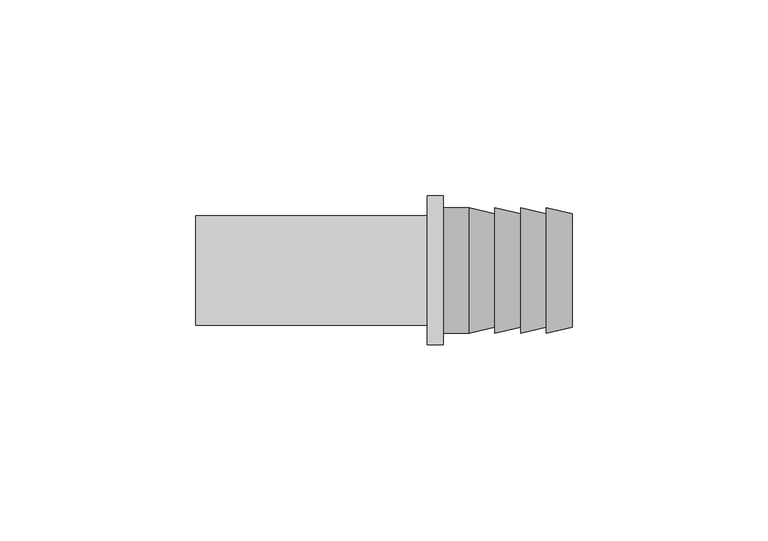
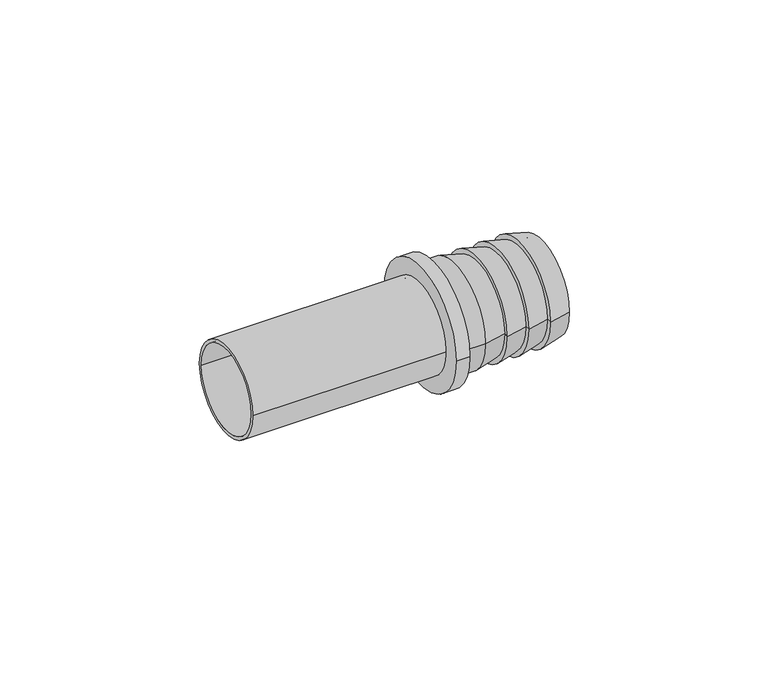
"""IFC4 building model written with IfcOpenShell, lengths in millimetres: pipe fitting geometry, VALTEC_VTi.909.I_Вставка с переходом на аксиальное соединение : VTi.909.I."""

from ifc_helpers import new_model, si_unit, point, frame, origin, origin_2d, place, context, project, spatial, polyline, circle_curve, trimmed, segment, composite_curve, outline, extrude, source, transform, mapped, element, save
from ifc_brep_helpers import plane_surface, cylinder_surface, revolved_surface, advanced_brep


def pipe_fitting_74ee13fb(model_context):
    return source(origin(), model_context, "Body", "SolidModel", [
        advanced_brep(
        [(69.704, -16.0, 0.0), (69.704, 16.0, 0.0), (76.278, 14.5, 0.0), (76.278, -14.5, 0.0), (63.13, -16.0, 0.0), (63.13, 16.0, 0.0), (63.13, -13.0, 0.0), (63.13, 13.0, 0.0), (96.0, -14.5, 0.0), (96.0, 14.5, 0.0), (96.0, 13.0, 0.0), (96.0, -13.0, 0.0), (89.426, -16.0, 0.0), (89.426, 16.0, 0.0), (89.426, -14.5, 0.0), (89.426, 14.5, 0.0), (82.852, -16.0, 0.0), (82.852, 16.0, 0.0), (82.852, -14.5, 0.0), (82.852, 14.5, 0.0), (76.278, -16.0, 0.0), (76.278, 16.0, 0.0)],
        [
            (0, 1, circle_curve(frame((69.704, 0.0, 0.0), z_axis=(1.0, 0.0, 0.0), x_axis=(0.0, 1.0, 0.0)), 16.0)),
            (1, 2),
            (2, 3, circle_curve(frame((76.278, 0.0, 0.0), z_axis=(-1.0, 0.0, 0.0), x_axis=(0.0, 1.0, 0.0)), 14.5)),
            (3, 0),
            (1, 0, circle_curve(frame((69.704, 0.0, 0.0), z_axis=(1.0, 0.0, 0.0), x_axis=(0.0, 1.0, 0.0)), 16.0)),
            (3, 2, circle_curve(frame((76.278, 0.0, 0.0), z_axis=(-1.0, 0.0, 0.0), x_axis=(0.0, 1.0, 0.0)), 14.5)),
            (4, 5, circle_curve(frame((63.13, 0.0, 0.0), z_axis=(1.0, 0.0, 0.0), x_axis=(0.0, 1.0, 0.0)), 16.0)),
            (5, 1),
            (0, 4),
            (5, 4, circle_curve(frame((63.13, 0.0, 0.0), z_axis=(1.0, 0.0, 0.0), x_axis=(0.0, 1.0, 0.0)), 16.0)),
            (6, 7, circle_curve(frame((63.13, 0.0, 0.0), z_axis=(1.0, 0.0, 0.0), x_axis=(0.0, 1.0, 0.0)), 13.0)),
            (7, 5),
            (4, 6),
            (7, 6, circle_curve(frame((63.13, 0.0, 0.0), z_axis=(1.0, 0.0, 0.0), x_axis=(0.0, 1.0, 0.0)), 13.0)),
            (8, 9, circle_curve(frame((96.0, 0.0, 0.0), z_axis=(1.0, 0.0, 0.0), x_axis=(0.0, 1.0, 0.0)), 14.5)),
            (9, 10),
            (10, 11, circle_curve(frame((96.0, 0.0, 0.0), z_axis=(-1.0, 0.0, 0.0), x_axis=(0.0, 1.0, 0.0)), 13.0)),
            (11, 8),
            (9, 8, circle_curve(frame((96.0, 0.0, 0.0), z_axis=(1.0, 0.0, 0.0), x_axis=(0.0, 1.0, 0.0)), 14.5)),
            (11, 10, circle_curve(frame((96.0, 0.0, 0.0), z_axis=(-1.0, 0.0, 0.0), x_axis=(0.0, 1.0, 0.0)), 13.0)),
            (12, 13, circle_curve(frame((89.426, 0.0, 0.0), z_axis=(1.0, 0.0, 0.0), x_axis=(0.0, 1.0, 0.0)), 16.0)),
            (13, 9),
            (8, 12),
            (13, 12, circle_curve(frame((89.426, 0.0, 0.0), z_axis=(1.0, 0.0, 0.0), x_axis=(0.0, 1.0, 0.0)), 16.0)),
            (14, 15, circle_curve(frame((89.426, 0.0, 0.0), z_axis=(1.0, 0.0, 0.0), x_axis=(0.0, 1.0, 0.0)), 14.5)),
            (15, 13),
            (12, 14),
            (15, 14, circle_curve(frame((89.426, 0.0, 0.0), z_axis=(1.0, 0.0, 0.0), x_axis=(0.0, 1.0, 0.0)), 14.5)),
            (16, 17, circle_curve(frame((82.852, 0.0, 0.0), z_axis=(1.0, 0.0, 0.0), x_axis=(0.0, 1.0, 0.0)), 16.0)),
            (17, 15),
            (14, 16),
            (17, 16, circle_curve(frame((82.852, 0.0, 0.0), z_axis=(1.0, 0.0, 0.0), x_axis=(0.0, 1.0, 0.0)), 16.0)),
            (18, 19, circle_curve(frame((82.852, 0.0, 0.0), z_axis=(1.0, 0.0, 0.0), x_axis=(0.0, 1.0, 0.0)), 14.5)),
            (19, 17),
            (16, 18),
            (19, 18, circle_curve(frame((82.852, 0.0, 0.0), z_axis=(1.0, 0.0, 0.0), x_axis=(0.0, 1.0, 0.0)), 14.5)),
            (20, 21, circle_curve(frame((76.278, 0.0, 0.0), z_axis=(1.0, 0.0, 0.0), x_axis=(0.0, 1.0, 0.0)), 16.0)),
            (21, 19),
            (18, 20),
            (21, 20, circle_curve(frame((76.278, 0.0, 0.0), z_axis=(1.0, 0.0, 0.0), x_axis=(0.0, 1.0, 0.0)), 16.0)),
            (2, 21),
            (20, 3),
            (10, 7),
            (6, 11),
        ],
        [
            revolved_surface(polyline([(76.278, 14.5, 0.0), (69.704, 16.0, 0.0)]), (94.6579616, 0.0, 0.0), (-1.0, 0.0, 0.0)),
            cylinder_surface(frame((94.6579616, 0.0, 0.0), z_axis=(-1.0, 0.0, 0.0), x_axis=(0.0, 1.0, 0.0)), 16.0),
            plane_surface(frame((63.13, 0.0, 0.0), z_axis=(-1.0, 0.0, 0.0), x_axis=(0.0, 1.0, 0.0))),
            plane_surface(frame((96.0, 0.0, 0.0), z_axis=(1.0, 0.0, 0.0), x_axis=(0.0, 1.0, 0.0))),
            revolved_surface(polyline([(96.0, 14.5, 0.0), (89.426, 16.0, 0.0)]), (94.6579616, 0.0, 0.0), (-1.0, 0.0, 0.0)),
            plane_surface(frame((89.426, 0.0, 0.0), z_axis=(-1.0, 0.0, 0.0), x_axis=(0.0, 1.0, 0.0))),
            revolved_surface(polyline([(89.426, 14.5, 0.0), (82.852, 16.0, 0.0)]), (94.6579616, 0.0, 0.0), (-1.0, 0.0, 0.0)),
            plane_surface(frame((82.852, 0.0, 0.0), z_axis=(-1.0, 0.0, 0.0), x_axis=(0.0, 1.0, 0.0))),
            revolved_surface(polyline([(82.852, 14.5, 0.0), (76.278, 16.0, 0.0)]), (94.6579616, 0.0, 0.0), (-1.0, 0.0, 0.0)),
            plane_surface(frame((76.278, 0.0, 0.0), z_axis=(-1.0, 0.0, 0.0), x_axis=(0.0, 1.0, 0.0))),
            revolved_surface(polyline([(63.13, 13.0, 0.0), (96.0, 13.0, 0.0)]), (94.6579616, 0.0, 0.0), (-1.0, 0.0, 0.0)),
        ],
        [
            (0, [[1, 2, 3, 4]]),
            (0, [[5, -4, 6, -2]]),
            (1, [[7, 8, -1, 9]]),
            (1, [[10, -9, -5, -8]]),
            (2, [[11, 12, -7, 13]]),
            (2, [[14, -13, -10, -12]]),
            (3, [[15, 16, 17, 18]]),
            (3, [[19, -18, 20, -16]]),
            (4, [[21, 22, -15, 23]]),
            (4, [[24, -23, -19, -22]]),
            (5, [[25, 26, -21, 27]]),
            (5, [[28, -27, -24, -26]]),
            (6, [[29, 30, -25, 31]]),
            (6, [[32, -31, -28, -30]]),
            (7, [[33, 34, -29, 35]]),
            (7, [[36, -35, -32, -34]]),
            (8, [[37, 38, -33, 39]]),
            (8, [[40, -39, -36, -38]]),
            (9, [[-3, 41, -37, 42]]),
            (9, [[-6, -42, -40, -41]]),
            (10, [[-17, 43, -11, 44]]),
            (10, [[-20, -44, -14, -43]]),
        ],
    ),
        extrude(outline(composite_curve([segment(trimmed(circle_curve(origin_2d(), 19.0), [point((-19.0, 0.0))], [point((19.0, 0.0))], False, "CARTESIAN"), True, "CONTINUOUS"), segment(trimmed(circle_curve(origin_2d(), 19.0), [point((19.0, 0.0))], [point((-19.0, 0.0))], False, "CARTESIAN"), True, "CONTINUOUS")], self_intersect=False), holes=[composite_curve([segment(trimmed(circle_curve(origin_2d(), 13.0), [point((-13.0, 0.0))], [point((13.0, 0.0))], True, "CARTESIAN"), True, "CONTINUOUS"), segment(trimmed(circle_curve(origin_2d(), 13.0), [point((13.0, 0.0))], [point((-13.0, 0.0))], True, "CARTESIAN"), True, "CONTINUOUS")], self_intersect=False)]), frame((59.0, 0.0, 0.0), z_axis=(1.0, 0.0, 0.0), x_axis=(0.0, 1.0, 0.0)), (0.0, 0.0, 1.0), 4.13),
        extrude(outline(composite_curve([segment(trimmed(circle_curve(origin_2d(), 14.0), [point((-14.0, 0.0))], [point((14.0, 0.0))], False, "CARTESIAN"), True, "CONTINUOUS"), segment(trimmed(circle_curve(origin_2d(), 14.0), [point((14.0, 0.0))], [point((-14.0, 0.0))], False, "CARTESIAN"), True, "CONTINUOUS")], self_intersect=False), holes=[composite_curve([segment(trimmed(circle_curve(origin_2d(), 13.0), [point((-13.0, 0.0))], [point((13.0, 0.0))], True, "CARTESIAN"), True, "CONTINUOUS"), segment(trimmed(circle_curve(origin_2d(), 13.0), [point((13.0, 0.0))], [point((-13.0, 0.0))], True, "CARTESIAN"), True, "CONTINUOUS")], self_intersect=False)]), frame((0.0, 0.0, 0.0), z_axis=(1.0, 0.0, 0.0), x_axis=(0.0, 1.0, 0.0)), (0.0, 0.0, 1.0), 59.0),
    ])


if __name__ == "__main__":
    model = new_model("IFC4")
    model_context = context("Model", 3, world=origin())
    ifc_project = project(units=[si_unit("LENGTHUNIT", "METRE", prefix="MILLI")], contexts=[model_context])
    site = spatial("IfcSite", under=ifc_project)
    building = spatial("IfcBuilding", under=site)
    placement = place(None, origin())
    pipe_fitting_shape = pipe_fitting_74ee13fb(model_context)
    element("IfcPipeFitting", 1, ObjectType="VALTEC_VTi.909.I_Вставка с переходом на аксиальное соединение : VTi.909.I", at=placement, inside=building, context=model_context, shape_type="MappedRepresentation", body=[
        mapped(pipe_fitting_shape, transform((0.0, 0.0, 0.0), x_axis=(1.0, 0.0, 0.0), y_axis=(0.0, 1.0, 0.0), z_axis=(0.0, 0.0, 1.0))),
    ])
    save(model, "model.ifc")
